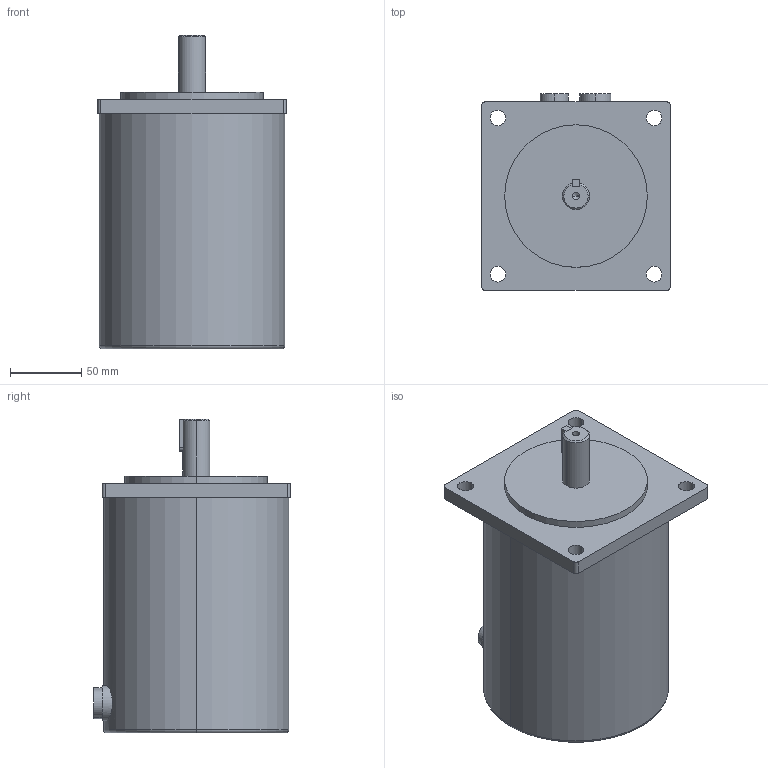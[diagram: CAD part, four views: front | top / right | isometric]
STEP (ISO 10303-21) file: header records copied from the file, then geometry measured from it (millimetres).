
FILE_DESCRIPTION (( 'STEP AP214' ), '1' );
FILE_NAME ('2S130Y-039M0.STEP', '2020-10-27T06:22:38', ( '' ), ( '' ), 'SwSTEP 2.0', 'SolidWorks 2020', '' );
FILE_SCHEMA (( 'AUTOMOTIVE_DESIGN' ));
Length unit declared in the file: millimetre
Products named in the file (1): 2S130Y-039M0
Bounding box: 132 x 138 x 220 mm (x, y, z)
Volume: 2417519.7 mm3; surface area: 113760.7 mm2
Topology: 2 solids, 2 shells, 59 faces, 138 edges, 89 vertices
Faces by surface type: cylinder 31, plane 21, cone 5, torus 2
Entity records: 1994 total; most frequent: CARTESIAN_POINT 517, DIRECTION 314, ORIENTED_EDGE 272, EDGE_CURVE 136, AXIS2_PLACEMENT_3D 125, VERTEX_POINT 89, EDGE_LOOP 75, CIRCLE 65
